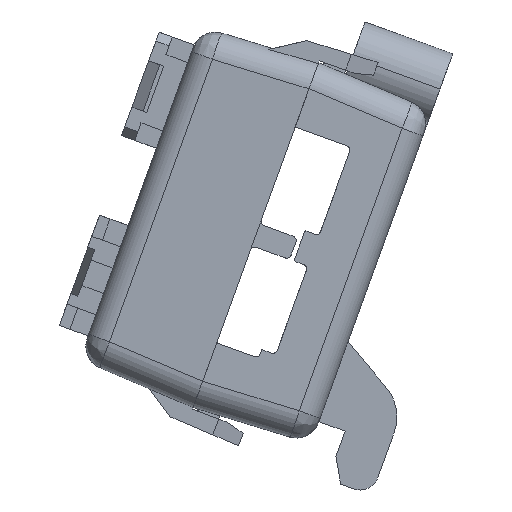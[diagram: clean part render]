
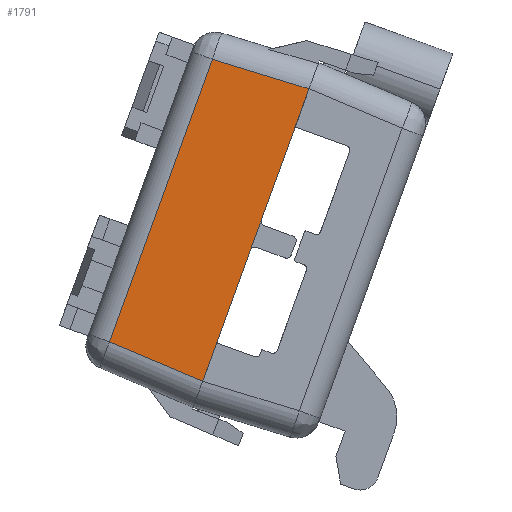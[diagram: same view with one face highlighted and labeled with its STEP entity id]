
A CAD part, front view. The second image highlights one B-rep face of the part: STEP entity #1791.
In plain terms, the highlighted free-form (B-spline) face has degree [5, 1] with [6, 2] control points.
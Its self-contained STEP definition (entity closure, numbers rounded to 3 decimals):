
#470=CARTESIAN_POINT('Vertex',(95.482,-699.003,264.848)) ;
#474=CARTESIAN_POINT('Control Point',(90.362,-699.003,250.78)) ;
#475=CARTESIAN_POINT('Control Point',(95.482,-699.003,264.848)) ;
#476=CARTESIAN_POINT('Vertex',(90.362,-699.003,250.78)) ;
#1709=CARTESIAN_POINT('Control Point',(76.454,-698.311,251.163)) ;
#1710=CARTESIAN_POINT('Control Point',(95.222,-699.358,244.332)) ;
#1711=CARTESIAN_POINT('Control Point',(79.34,-698.311,259.091)) ;
#1712=CARTESIAN_POINT('Control Point',(98.108,-699.358,252.26)) ;
#1713=CARTESIAN_POINT('Control Point',(82.225,-698.311,267.02)) ;
#1714=CARTESIAN_POINT('Control Point',(100.993,-699.358,260.189)) ;
#1715=CARTESIAN_POINT('Control Point',(85.111,-698.311,274.948)) ;
#1716=CARTESIAN_POINT('Control Point',(103.879,-699.358,268.117)) ;
#1717=CARTESIAN_POINT('Control Point',(87.997,-698.311,282.877)) ;
#1718=CARTESIAN_POINT('Control Point',(106.765,-699.358,276.046)) ;
#1719=CARTESIAN_POINT('Control Point',(90.883,-698.311,290.805)) ;
#1720=CARTESIAN_POINT('Control Point',(109.651,-699.358,283.974)) ;
#1722=CARTESIAN_POINT('Control Point',(80.378,-698.435,255.018)) ;
#1723=CARTESIAN_POINT('Control Point',(82.585,-698.435,261.08)) ;
#1724=CARTESIAN_POINT('Control Point',(84.791,-698.435,267.143)) ;
#1725=CARTESIAN_POINT('Control Point',(86.998,-698.435,273.205)) ;
#1726=CARTESIAN_POINT('Control Point',(89.204,-698.435,279.267)) ;
#1727=CARTESIAN_POINT('Control Point',(91.411,-698.435,285.329)) ;
#1728=CARTESIAN_POINT('Vertex',(80.378,-698.435,255.018)) ;
#1730=CARTESIAN_POINT('Vertex',(91.411,-698.435,285.329)) ;
#1734=CARTESIAN_POINT('Control Point',(80.378,-698.435,255.018)) ;
#1735=CARTESIAN_POINT('Control Point',(90.362,-699.003,250.78)) ;
#1738=CARTESIAN_POINT('Control Point',(95.482,-699.003,264.848)) ;
#1739=CARTESIAN_POINT('Control Point',(95.516,-699.003,264.942)) ;
#1740=CARTESIAN_POINT('Control Point',(95.551,-699.003,265.036)) ;
#1741=CARTESIAN_POINT('Control Point',(95.585,-699.003,265.13)) ;
#1742=CARTESIAN_POINT('Control Point',(95.619,-699.003,265.224)) ;
#1743=CARTESIAN_POINT('Control Point',(95.653,-699.003,265.318)) ;
#1744=CARTESIAN_POINT('Vertex',(95.653,-699.003,265.318)) ;
#1748=CARTESIAN_POINT('Control Point',(95.653,-699.003,265.318)) ;
#1749=CARTESIAN_POINT('Control Point',(95.823,-699.003,265.783)) ;
#1750=CARTESIAN_POINT('Control Point',(95.992,-699.003,266.249)) ;
#1751=CARTESIAN_POINT('Control Point',(96.161,-699.003,266.714)) ;
#1752=CARTESIAN_POINT('Control Point',(96.33,-699.003,267.179)) ;
#1753=CARTESIAN_POINT('Control Point',(96.5,-699.003,267.644)) ;
#1754=CARTESIAN_POINT('Vertex',(96.5,-699.003,267.644)) ;
#1758=CARTESIAN_POINT('Control Point',(96.5,-699.003,267.644)) ;
#1759=CARTESIAN_POINT('Control Point',(96.534,-699.003,267.738)) ;
#1760=CARTESIAN_POINT('Control Point',(96.568,-699.003,267.832)) ;
#1761=CARTESIAN_POINT('Control Point',(96.602,-699.003,267.926)) ;
#1762=CARTESIAN_POINT('Control Point',(96.637,-699.003,268.02)) ;
#1763=CARTESIAN_POINT('Control Point',(96.671,-699.003,268.114)) ;
#1764=CARTESIAN_POINT('Vertex',(96.671,-699.003,268.114)) ;
#1768=CARTESIAN_POINT('Control Point',(96.671,-699.003,268.114)) ;
#1769=CARTESIAN_POINT('Control Point',(97.693,-699.003,270.923)) ;
#1770=CARTESIAN_POINT('Control Point',(98.715,-699.003,273.732)) ;
#1771=CARTESIAN_POINT('Control Point',(99.738,-699.003,276.541)) ;
#1772=CARTESIAN_POINT('Control Point',(100.76,-699.003,279.35)) ;
#1773=CARTESIAN_POINT('Control Point',(101.783,-699.003,282.158)) ;
#1774=CARTESIAN_POINT('Vertex',(101.783,-699.003,282.158)) ;
#1778=CARTESIAN_POINT('Control Point',(91.411,-698.435,285.329)) ;
#1779=CARTESIAN_POINT('Control Point',(101.783,-699.003,282.158)) ;
#1782=ORIENTED_EDGE('',*,*,#1732,.F.) ;
#1783=ORIENTED_EDGE('',*,*,#1736,.T.) ;
#1784=ORIENTED_EDGE('',*,*,#478,.T.) ;
#1785=ORIENTED_EDGE('',*,*,#1746,.T.) ;
#1786=ORIENTED_EDGE('',*,*,#1756,.T.) ;
#1787=ORIENTED_EDGE('',*,*,#1766,.T.) ;
#1788=ORIENTED_EDGE('',*,*,#1776,.T.) ;
#1789=ORIENTED_EDGE('',*,*,#1780,.F.) ;
#1791=ADVANCED_FACE('\X2\96F64EF651E04F554F53\X0\',(#1790),#1708,.F.) ;
#473=B_SPLINE_CURVE_WITH_KNOTS('',1,(#474,#475),.UNSPECIFIED.,.F.,.U.,(2,2),(2.991,17.962),.UNSPECIFIED.) ;
#1721=B_SPLINE_CURVE_WITH_KNOTS('',5,(#1722,#1723,#1724,#1725,#1726,#1727),.UNSPECIFIED.,.F.,.U.,(6,6),(4.965,37.222),.UNSPECIFIED.) ;
#1733=B_SPLINE_CURVE_WITH_KNOTS('',1,(#1734,#1735),.UNSPECIFIED.,.F.,.U.,(2,2),(-5.43,5.43),.UNSPECIFIED.) ;
#1737=B_SPLINE_CURVE_WITH_KNOTS('',5,(#1738,#1739,#1740,#1741,#1742,#1743),.UNSPECIFIED.,.F.,.U.,(6,6),(19.368,19.868),.UNSPECIFIED.) ;
#1747=B_SPLINE_CURVE_WITH_KNOTS('',5,(#1748,#1749,#1750,#1751,#1752,#1753),.UNSPECIFIED.,.F.,.U.,(6,6),(19.868,22.343),.UNSPECIFIED.) ;
#1757=B_SPLINE_CURVE_WITH_KNOTS('',5,(#1758,#1759,#1760,#1761,#1762,#1763),.UNSPECIFIED.,.F.,.U.,(6,6),(22.343,22.843),.UNSPECIFIED.) ;
#1767=B_SPLINE_CURVE_WITH_KNOTS('',5,(#1768,#1769,#1770,#1771,#1772,#1773),.UNSPECIFIED.,.F.,.U.,(6,6),(22.843,37.789),.UNSPECIFIED.) ;
#1777=B_SPLINE_CURVE_WITH_KNOTS('',1,(#1778,#1779),.UNSPECIFIED.,.F.,.U.,(2,2),(-5.43,5.43),.UNSPECIFIED.) ;
#1708=B_SPLINE_SURFACE_WITH_KNOTS('',5,1,((#1709,#1710),(#1711,#1712),(#1713,#1714),(#1715,#1716),(#1717,#1718),(#1719,#1720)),.UNSPECIFIED.,.F.,.F.,.U.,(6,6),(2,2),(0.,42.187),(0.,20.),.UNSPECIFIED.) ;
#478=EDGE_CURVE('',#477,#471,#473,.T.) ;
#1732=EDGE_CURVE('',#1729,#1731,#1721,.T.) ;
#1736=EDGE_CURVE('',#1729,#477,#1733,.T.) ;
#1746=EDGE_CURVE('',#471,#1745,#1737,.T.) ;
#1756=EDGE_CURVE('',#1745,#1755,#1747,.T.) ;
#1766=EDGE_CURVE('',#1755,#1765,#1757,.T.) ;
#1776=EDGE_CURVE('',#1765,#1775,#1767,.T.) ;
#1780=EDGE_CURVE('',#1731,#1775,#1777,.T.) ;
#1781=EDGE_LOOP('',(#1782,#1783,#1784,#1785,#1786,#1787,#1788,#1789)) ;
#1790=FACE_OUTER_BOUND('',#1781,.T.) ;
#471=VERTEX_POINT('',#470) ;
#477=VERTEX_POINT('',#476) ;
#1729=VERTEX_POINT('',#1728) ;
#1731=VERTEX_POINT('',#1730) ;
#1745=VERTEX_POINT('',#1744) ;
#1755=VERTEX_POINT('',#1754) ;
#1765=VERTEX_POINT('',#1764) ;
#1775=VERTEX_POINT('',#1774) ;
